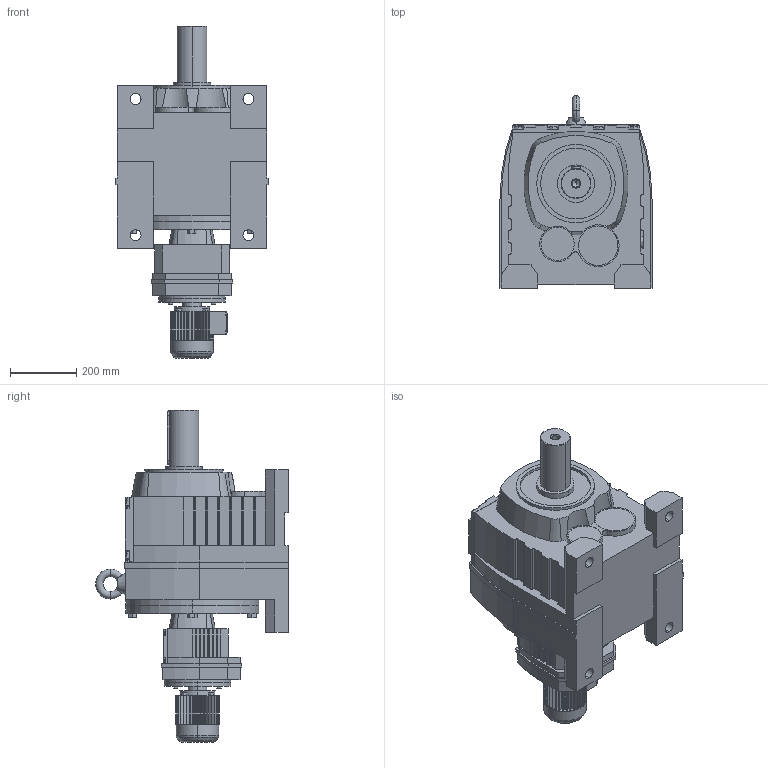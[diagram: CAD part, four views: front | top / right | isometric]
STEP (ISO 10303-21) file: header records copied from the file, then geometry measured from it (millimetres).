
FILE_DESCRIPTION(('Open CASCADE Model'),'2;1');
FILE_NAME('Open CASCADE Shape Model','2021-07-24T14:36:40',('Author'),( 'Open CASCADE'),'Open CASCADE STEP processor 6.3','Open CASCADE 6.3' ,'Unknown');
FILE_SCHEMA(('AUTOMOTIVE_DESIGN_CC2 { 1 2 10303 214 -1 1 5 4 }'));
Length unit declared in the file: millimetre
Products named in the file (4): 1_R137R77DR63; R37‵167_R137R77.step; 萇儂_200-DR63-179-234-132-105.step; R_137_77.step
Assembly tree (3 placements, depth 2):
  1_R137R77DR63
    R37‵167_R137R77.step
    萇儂_200-DR63-179-234-132-105.step
    R_137_77.step
Bounding box: 458 x 581 x 1000 mm (x, y, z)
Volume: 88452190.3 mm3; surface area: 2129030.3 mm2
Topology: 3 solids, 3 shells, 975 faces, 2604 edges, 1695 vertices
Faces by surface type: plane 719, cylinder 218, cone 28, torus 10
Entity records: 67652 total; most frequent: CARTESIAN_POINT 17400, DIRECTION 8859, LINE 5287, VECTOR 5287, ORIENTED_EDGE 5204, PCURVE 5204, DEFINITIONAL_REPRESENTATION 5204, EDGE_CURVE 2602
